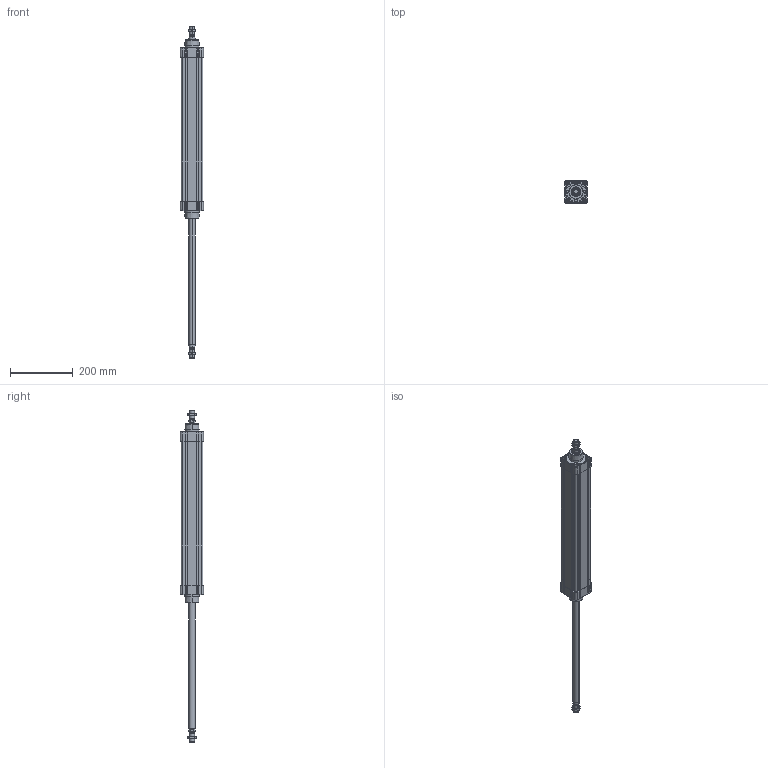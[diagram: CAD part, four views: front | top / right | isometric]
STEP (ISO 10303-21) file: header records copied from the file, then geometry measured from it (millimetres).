
FILE_DESCRIPTION (( 'STEP AP214' ), '1' );
FILE_NAME ('N11M40630400.STEP', '2021-09-28T10:06:01', ( '' ), ( '' ), 'SwSTEP 2.0', 'SolidWorks 2016', '' );
FILE_SCHEMA (( 'AUTOMOTIVE_DESIGN' ));
Length unit declared in the file: millimetre
Products named in the file (7): 21.752.0; 000.513.7_000.513.0400; 21.D01.0000_21.D01.0400; TA Ø63 ISO 15552 WEB; N11M40630400; 21.D03.0000_21.D03.0400; Pistone Ø63 ISO 15552
Assembly tree (8 placements, depth 2):
  N11M40630400
    TA Ø63 ISO 15552 WEB  x2
    21.D01.0000_21.D01.0400
    21.D03.0000_21.D03.0400
    Pistone Ø63 ISO 15552
    21.752.0  x2
    000.513.7_000.513.0400
Bounding box: 73.97 x 73.98 x 1059 mm (x, y, z)
Volume: 1375464.4 mm3; surface area: 513381.8 mm2
Topology: 20 solids, 20 shells, 2131 faces, 5372 edges, 3281 vertices
Faces by surface type: plane 721, cylinder 712, bspline 252, cone 246, torus 162, sphere 38
Entity records: 48750 total; most frequent: CARTESIAN_POINT 10726, ORIENTED_EDGE 5924, DIRECTION 5710, EDGE_CURVE 2962, AXIS2_PLACEMENT_3D 2139, VERTEX_POINT 1841, LINE 1432, VECTOR 1432
